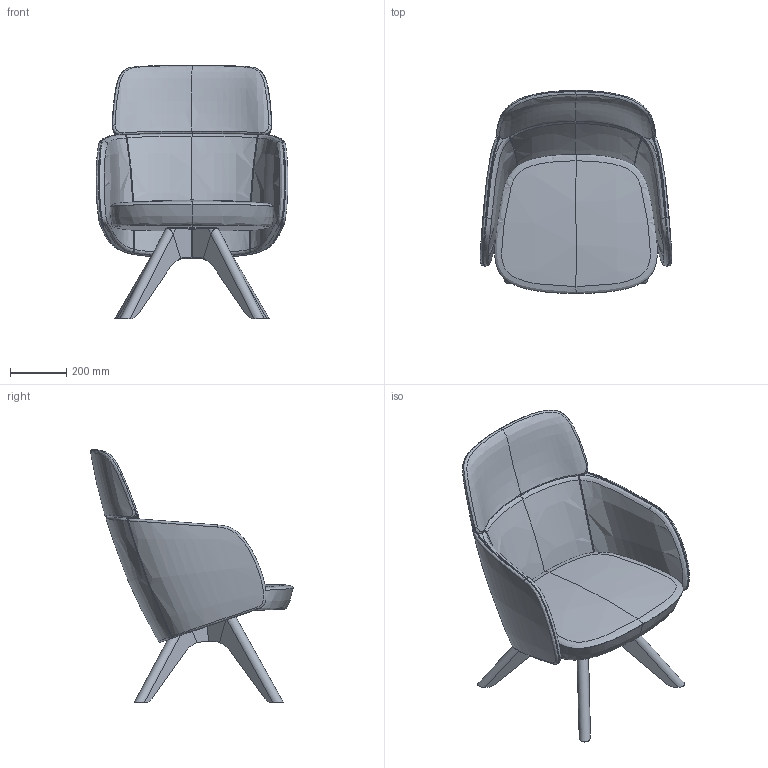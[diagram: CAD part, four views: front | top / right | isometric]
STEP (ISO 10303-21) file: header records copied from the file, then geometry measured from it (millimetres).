
FILE_DESCRIPTION(/* description */ (''),/* implementation_level */ '2;1');
FILE_NAME(/* name */ 'Winx WX 885-16',/* time_stamp */ '2021-03-30T00:49:11+02:00',/* author */ (''),/* organization */ (''),/* preprocessor_version */ 'ST-DEVELOPER v16.5',/* originating_system */ '',/* authorisation */ '');
FILE_SCHEMA (('CONFIG_CONTROL_DESIGN'));
Length unit declared in the file: millimetre
Products named in the file (1): Document
Bounding box: 682.45 x 722.18 x 902.04 mm (x, y, z)
Volume: 53455354.2 mm3; surface area: 2495636.8 mm2
Topology: 4 solids, 8 shells, 202 faces, 446 edges, 259 vertices
Faces by surface type: bspline 116, plane 57, cylinder 29
Entity records: 18430 total; most frequent: CARTESIAN_POINT 15443, ORIENTED_EDGE 862, EDGE_CURVE 443, B_SPLINE_CURVE_WITH_KNOTS 356, VERTEX_POINT 253, ADVANCED_FACE 202, FACE_OUTER_BOUND 202, EDGE_LOOP 202
